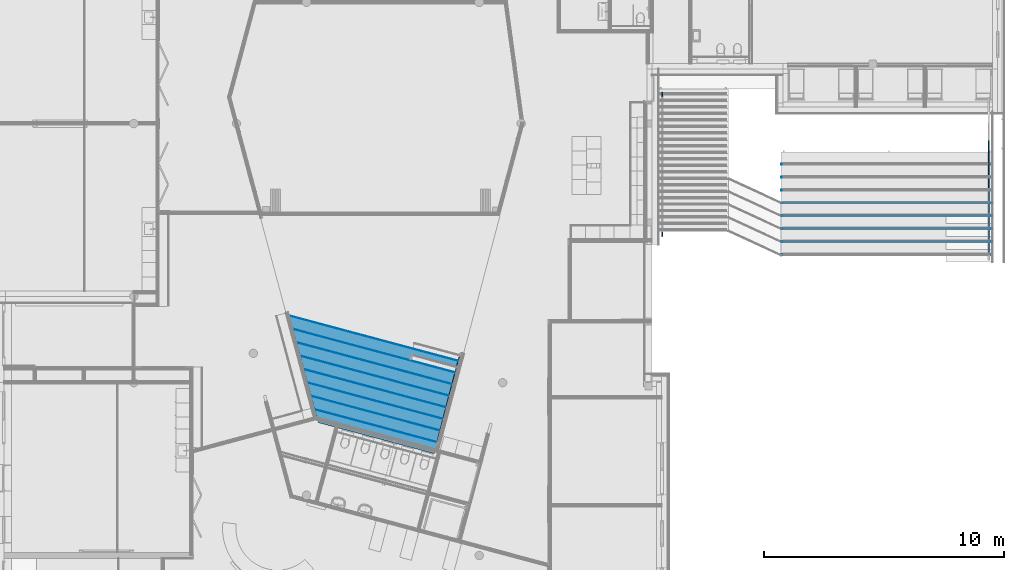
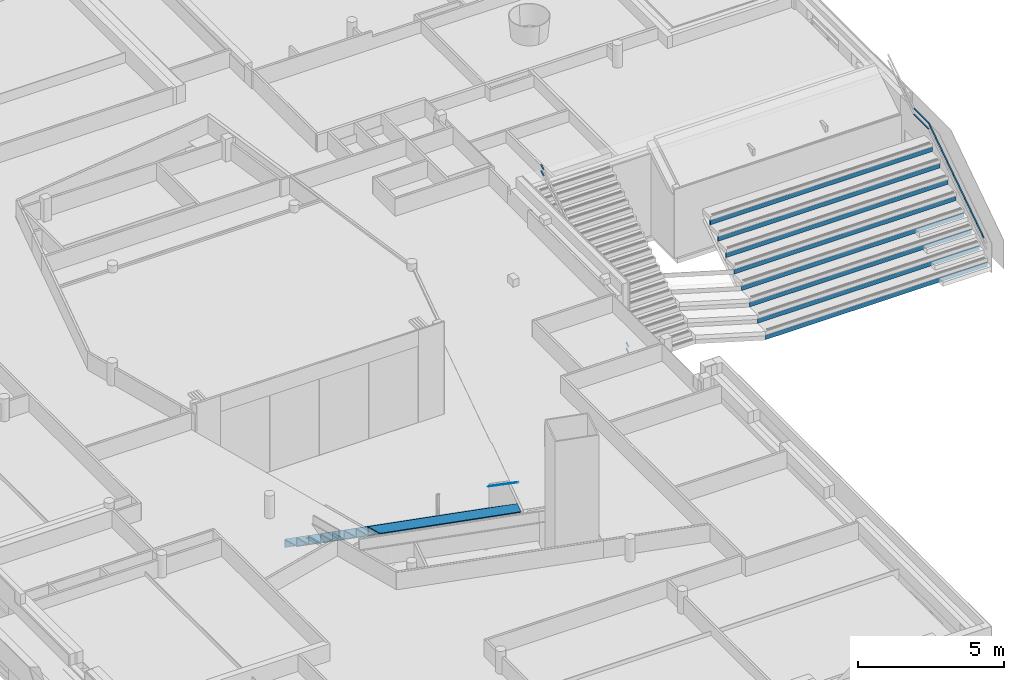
# One storey, part 2 of 167: 32 members, 7 elements without a shape of their own.
"""IFC2X3 building model written with IfcOpenShell, lengths in millimetres."""

from ifc_helpers import new_model, entity, si_unit, converted_unit, derived_unit, money_unit, direction, frame, origin_with_axes, place, context, subcontext, project, spatial, faceted_brep, source, transform, mapped, material, type_object, type_shapes, element, aggregate, save


model = new_model("IFC2X3")

# Units and contexts
model_context = context("Model", 3, precision=0.01, world=origin_with_axes(), true_north=direction((0.0, 1.0)))
plan_context = context("Plan", 3, precision=0.01, world=origin_with_axes(), true_north=direction((0.0, 1.0)))
body_context = subcontext(model_context, "Body", "Model", "MODEL_VIEW")
ifc_project = project(units=[si_unit("LENGTHUNIT", "METRE", prefix="MILLI"), si_unit("AREAUNIT", "SQUARE_METRE"), si_unit("VOLUMEUNIT", "CUBIC_METRE"), converted_unit("PLANEANGLEUNIT", "DEGREE", entity("IfcPlaneAngleMeasure", 0.0174532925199), si_unit("PLANEANGLEUNIT", "RADIAN"), dimensions=[0, 0, 0, 0, 0, 0, 0]), si_unit("SOLIDANGLEUNIT", "STERADIAN"), money_unit("EUR"), converted_unit("TIMEUNIT", "Year", entity("IfcTimeMeasure", 31556926.0), si_unit("TIMEUNIT", "SECOND"), dimensions=[0, 0, 1, 0, 0, 0, 0]), si_unit("MASSUNIT", "GRAM", prefix="KILO"), si_unit("THERMODYNAMICTEMPERATUREUNIT", "DEGREE_CELSIUS"), si_unit("LUMINOUSINTENSITYUNIT", "LUMEN"), si_unit("ENERGYUNIT", "JOULE", prefix="MEGA"), derived_unit("THERMALCONDUCTANCEUNIT", [(si_unit("POWERUNIT", "WATT"), 1), (si_unit("LENGTHUNIT", "METRE"), -1), (si_unit("THERMODYNAMICTEMPERATUREUNIT", "KELVIN"), -1)]), derived_unit("SPECIFICHEATCAPACITYUNIT", [(si_unit("ENERGYUNIT", "JOULE"), 1), (si_unit("MASSUNIT", "GRAM", prefix="KILO"), -1), (si_unit("THERMODYNAMICTEMPERATUREUNIT", "KELVIN"), -1)]), derived_unit("MASSDENSITYUNIT", [(si_unit("MASSUNIT", "GRAM", prefix="KILO"), 1), (si_unit("VOLUMEUNIT", "CUBIC_METRE"), -1)])], contexts=[model_context, plan_context])

# Site, building, storey
site_placement = place(None, origin_with_axes())
site = spatial("IfcSite", under=ifc_project, at=site_placement, Name="Site", CompositionType="ELEMENT")
building_placement = place(site_placement, origin_with_axes())
building = spatial("IfcBuilding", under=site, at=building_placement, Name="Naam gebouw", CompositionType="ELEMENT")
storey_placement = place(building_placement, origin_with_axes())
storey = spatial("IfcBuildingStorey", under=building, at=storey_placement, Name="Begane grond", CompositionType="ELEMENT", Elevation=0.0)

# Stair, members
stair_1_placement = place(storey_placement, frame((20763.4047106, 18904.1199995, 0.0), z_axis=(0.0, 0.0, 1.0), x_axis=(0.980577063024, 0.196134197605, 0.0)))
stair_1 = element("IfcStair", 1, at=stair_1_placement, inside=storey, Name="_Trap_Trap-x", ShapeType="NOTDEFINED")
ifc_material_1 = material(Name="Hout - Vloer")
member_type_1 = type_object("IfcMemberType", Name="IfcMember", PredefinedType="USERDEFINED")
member_1_placement = place(stair_1_placement, frame((-3271.86527099, 1617.83733685, 322.0), z_axis=(0.0, 0.0, 1.0), x_axis=(-0.896401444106, 0.443243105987, 0.0)))
member_1 = element("IfcMember", 2, at=member_1_placement, type_object=member_type_1, material=ifc_material_1, Name="_Trap - stootbord_Stootbord-x", context=body_context, shape_type="Brep", body=[
    faceted_brep([(3675.06219206, 0.0, 0.0), (3664.64169934, 18.0, 0.0), (-3650.0, 18.0, 0.0), (-3650.0, 0.0, 0.0), (3675.06219206, 0.0, -322.0), (3664.64169934, 18.0, -322.0), (-3650.0, 18.0, -322.0), (-3650.0, 0.0, -322.0)], [[[0, 1, 2, 3]], [[0, 4, 5, 1]], [[1, 5, 6, 2]], [[3, 2, 6, 7]], [[4, 0, 3, 7]], [[5, 4, 7, 6]]]),
])
member_2_placement = place(stair_1_placement, frame((-3493.48682398, 1169.6366148, 682.0), z_axis=(0.0, 0.0, 1.0), x_axis=(-0.896401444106, 0.443243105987, 0.0)))
member_2 = element("IfcMember", 3, at=member_2_placement, type_object=member_type_1, material=ifc_material_1, Name="_Trap - stootbord_Stootbord-x", context=body_context, shape_type="Brep", body=[
    faceted_brep([(3385.60406096, 0.0, 0.0), (3375.18356824, 18.0, 0.0), (-3650.0, 18.0, 0.0), (-3650.0, 0.0, 0.0), (3385.60406096, 0.0, -322.0), (3375.18356824, 18.0, -322.0), (-3650.0, 18.0, -322.0), (-3650.0, 0.0, -322.0)], [[[0, 1, 2, 3]], [[0, 4, 5, 1]], [[1, 5, 6, 2]], [[3, 2, 6, 7]], [[4, 0, 3, 7]], [[5, 4, 7, 6]]]),
])
member_3_placement = place(stair_1_placement, frame((-3715.10837697, 721.435892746, 1042.0), z_axis=(0.0, 0.0, 1.0), x_axis=(-0.896401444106, 0.443243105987, 0.0)))
member_3 = element("IfcMember", 4, at=member_3_placement, type_object=member_type_1, material=ifc_material_1, Name="_Trap - stootbord_Stootbord-x", context=body_context, shape_type="Brep", body=[
    faceted_brep([(3096.14592987, 0.0, 0.0), (3085.72543715, 18.0, 0.0), (-3650.0, 18.0, 0.0), (-3650.0, 0.0, 0.0), (3096.14592987, 0.0, -322.0), (3085.72543715, 18.0, -322.0), (-3650.0, 18.0, -322.0), (-3650.0, 0.0, -322.0)], [[[0, 1, 2, 3]], [[0, 4, 5, 1]], [[1, 5, 6, 2]], [[3, 2, 6, 7]], [[4, 0, 3, 7]], [[5, 4, 7, 6]]]),
])
member_4_placement = place(stair_1_placement, frame((-3936.72992997, 273.235170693, 1402.0), z_axis=(0.0, 0.0, 1.0), x_axis=(-0.896401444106, 0.443243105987, 0.0)))
member_4 = element("IfcMember", 5, at=member_4_placement, type_object=member_type_1, material=ifc_material_1, Name="_Trap - stootbord_Stootbord-x", context=body_context, shape_type="Brep", body=[
    faceted_brep([(2806.68779878, 0.0, 0.0), (2796.26730606, 18.0, 0.0), (-3650.0, 18.0, 0.0), (-3650.0, 0.0, 0.0), (2806.68779878, 0.0, -322.0), (2796.26730606, 18.0, -322.0), (-3650.0, 18.0, -322.0), (-3650.0, 0.0, -322.0)], [[[0, 1, 2, 3]], [[0, 4, 5, 1]], [[1, 5, 6, 2]], [[3, 2, 6, 7]], [[4, 0, 3, 7]], [[5, 4, 7, 6]]]),
])
member_5_placement = place(stair_1_placement, frame((-4158.35148296, -174.965551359, 1762.0), z_axis=(0.0, 0.0, 1.0), x_axis=(-0.896401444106, 0.443243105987, 0.0)))
member_5 = element("IfcMember", 6, at=member_5_placement, type_object=member_type_1, material=ifc_material_1, Name="_Trap - stootbord_Stootbord-x", context=body_context, shape_type="Brep", body=[
    faceted_brep([(2517.22966768, 0.0, 0.0), (2506.80917496, 18.0, 0.0), (-3650.0, 18.0, 0.0), (-3650.0, 0.0, 0.0), (2517.22966768, 0.0, -322.0), (2506.80917496, 18.0, -322.0), (-3650.0, 18.0, -322.0), (-3650.0, 0.0, -322.0)], [[[0, 1, 2, 3]], [[0, 4, 5, 1]], [[1, 5, 6, 2]], [[3, 2, 6, 7]], [[4, 0, 3, 7]], [[5, 4, 7, 6]]]),
])
member_6_placement = place(stair_1_placement, frame((-4379.97303595, -623.166273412, 2122.0), z_axis=(0.0, 0.0, 1.0), x_axis=(-0.896401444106, 0.443243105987, 0.0)))
member_6 = element("IfcMember", 7, at=member_6_placement, type_object=member_type_1, material=ifc_material_1, Name="_Trap - stootbord_Stootbord-x", context=body_context, shape_type="Brep", body=[
    faceted_brep([(2227.77153659, 0.0, 0.0), (2217.35104387, 18.0, 0.0), (-3650.0, 18.0, 0.0), (-3650.0, 0.0, 0.0), (2227.77153659, 0.0, -322.0), (2217.35104387, 18.0, -322.0), (-3650.0, 18.0, -322.0), (-3650.0, 0.0, -322.0)], [[[0, 1, 2, 3]], [[0, 4, 5, 1]], [[1, 5, 6, 2]], [[3, 2, 6, 7]], [[4, 0, 3, 7]], [[5, 4, 7, 6]]]),
])
member_7_placement = place(stair_1_placement, frame((-4601.59458895, -1071.36699547, 2482.0), z_axis=(0.0, 0.0, 1.0), x_axis=(-0.896401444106, 0.443243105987, 0.0)))
member_7 = element("IfcMember", 8, at=member_7_placement, type_object=member_type_1, material=ifc_material_1, Name="_Trap - stootbord_Stootbord-x", context=body_context, shape_type="Brep", body=[
    faceted_brep([(1938.3134055, 0.0, 0.0), (1927.89291278, 18.0, 0.0), (-3650.0, 18.0, 0.0), (-3650.0, 0.0, 0.0), (1938.3134055, 0.0, -322.0), (1927.89291278, 18.0, -322.0), (-3650.0, 18.0, -322.0), (-3650.0, 0.0, -322.0)], [[[0, 1, 2, 3]], [[0, 4, 5, 1]], [[1, 5, 6, 2]], [[3, 2, 6, 7]], [[4, 0, 3, 7]], [[5, 4, 7, 6]]]),
])
member_8_placement = place(stair_1_placement, frame((-4823.21614194, -1519.56771752, 2842.0), z_axis=(0.0, 0.0, 1.0), x_axis=(-0.896401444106, 0.443243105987, 0.0)))
member_8 = element("IfcMember", 9, at=member_8_placement, type_object=member_type_1, material=ifc_material_1, Name="_Trap - stootbord_Stootbord-x", context=body_context, shape_type="Brep", body=[
    faceted_brep([(1648.8552744, 0.0, 0.0), (1638.43478168, 18.0, 0.0), (-3650.0, 18.0, 0.0), (-3650.0, 0.0, 0.0), (1648.8552744, 0.0, -322.0), (1638.43478168, 18.0, -322.0), (-3650.0, 18.0, -322.0), (-3650.0, 0.0, -322.0)], [[[0, 1, 2, 3]], [[0, 4, 5, 1]], [[1, 5, 6, 2]], [[3, 2, 6, 7]], [[4, 0, 3, 7]], [[5, 4, 7, 6]]]),
])

stair_2_placement = place(storey_placement, frame((34186.0021329, 23294.6820704, 0.0), z_axis=(0.0, 0.0, 1.0), x_axis=(1.0, 0.0, 0.0)))
stair_2 = element("IfcStair", 10, at=stair_2_placement, inside=storey, Name="_Trap_Trap-x", ShapeType="NOTDEFINED")
ifc_material_2 = material(Name="Beton gewapend prefab vloer")
member_9_placement = place(stair_2_placement, frame((4499.99573192, -3.60825808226, 180.0), z_axis=(0.0, 0.0, 1.0), x_axis=(0.999999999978, -6.66713791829e-06, 0.0)))
member_9 = element("IfcMember", 11, at=member_9_placement, type_object=member_type_1, material=ifc_material_2, Name="_Trap - stootbord_Stootbord-x", context=body_context, shape_type="Brep", body=[
    faceted_brep([(4299.97799864, 20.0, 0.0), (4299.97799864, 60.0, 0.0), (-4500.0, 60.0, 0.0), (-4500.0, 20.0, 0.0), (4299.97799864, 20.0, -180.0), (4299.97799864, 60.0, -180.0), (-4500.0, 60.0, -180.0), (-4500.0, 20.0, -180.0)], [[[0, 1, 2, 3]], [[0, 4, 5, 1]], [[1, 5, 6, 2]], [[3, 2, 6, 7]], [[4, 0, 3, 7]], [[5, 4, 7, 6]]]),
])
member_10_placement = place(stair_2_placement, frame((4499.99933218, 536.391741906, 540.0), z_axis=(0.0, 0.0, 1.0), x_axis=(0.999999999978, -6.66713791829e-06, 0.0)))
member_10 = element("IfcMember", 12, at=member_10_placement, type_object=member_type_1, material=ifc_material_2, Name="_Trap - stootbord_Stootbord-x", context=body_context, shape_type="Brep", body=[
    faceted_brep([(4299.97799864, 20.0, 0.0), (4299.97799864, 60.0, 0.0), (-4500.0, 60.0, 0.0), (-4500.0, 20.0, 0.0), (4299.97799864, 20.0, -180.0), (4299.97799864, 60.0, -180.0), (-4500.0, 60.0, -180.0), (-4500.0, 20.0, -180.0)], [[[0, 1, 2, 3]], [[0, 4, 5, 1]], [[1, 5, 6, 2]], [[3, 2, 6, 7]], [[4, 0, 3, 7]], [[5, 4, 7, 6]]]),
])
member_11_placement = place(stair_2_placement, frame((4500.00293243, 1076.39174189, 900.0), z_axis=(0.0, 0.0, 1.0), x_axis=(0.999999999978, -6.66713791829e-06, 0.0)))
member_11 = element("IfcMember", 13, at=member_11_placement, type_object=member_type_1, material=ifc_material_2, Name="_Trap - stootbord_Stootbord-x", context=body_context, shape_type="Brep", body=[
    faceted_brep([(4299.97799864, 20.0, 0.0), (4299.97799864, 60.0, 0.0), (-4500.0, 60.0, 0.0), (-4500.0, 20.0, 0.0), (4299.97799864, 20.0, -180.0), (4299.97799864, 60.0, -180.0), (-4500.0, 60.0, -180.0), (-4500.0, 20.0, -180.0)], [[[0, 1, 2, 3]], [[0, 4, 5, 1]], [[1, 5, 6, 2]], [[3, 2, 6, 7]], [[4, 0, 3, 7]], [[5, 4, 7, 6]]]),
])
member_12_placement = place(stair_2_placement, frame((4500.00653269, 1616.39174188, 1260.0), z_axis=(0.0, 0.0, 1.0), x_axis=(0.999999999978, -6.66713791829e-06, 0.0)))
member_12 = element("IfcMember", 14, at=member_12_placement, type_object=member_type_1, material=ifc_material_2, Name="_Trap - stootbord_Stootbord-x", context=body_context, shape_type="Brep", body=[
    faceted_brep([(4299.97799864, 20.0, 0.0), (4299.97799864, 60.0, 0.0), (-4500.0, 60.0, 0.0), (-4500.0, 20.0, 0.0), (4299.97799864, 20.0, -180.0), (4299.97799864, 60.0, -180.0), (-4500.0, 60.0, -180.0), (-4500.0, 20.0, -180.0)], [[[0, 1, 2, 3]], [[0, 4, 5, 1]], [[1, 5, 6, 2]], [[3, 2, 6, 7]], [[4, 0, 3, 7]], [[5, 4, 7, 6]]]),
])
member_13_placement = place(stair_2_placement, frame((4500.01013294, 2156.39174187, 1620.0), z_axis=(0.0, 0.0, 1.0), x_axis=(0.999999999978, -6.66713791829e-06, 0.0)))
member_13 = element("IfcMember", 15, at=member_13_placement, type_object=member_type_1, material=ifc_material_2, Name="_Trap - stootbord_Stootbord-x", context=body_context, shape_type="Brep", body=[
    faceted_brep([(4299.97799864, 20.0, 0.0), (4299.97799864, 60.0, 0.0), (-4500.0, 60.0, 0.0), (-4500.0, 20.0, 0.0), (4299.97799864, 20.0, -180.0), (4299.97799864, 60.0, -180.0), (-4500.0, 60.0, -180.0), (-4500.0, 20.0, -180.0)], [[[0, 1, 2, 3]], [[0, 4, 5, 1]], [[1, 5, 6, 2]], [[3, 2, 6, 7]], [[4, 0, 3, 7]], [[5, 4, 7, 6]]]),
])
member_14_placement = place(stair_2_placement, frame((4500.01373319, 2696.39174186, 1980.0), z_axis=(0.0, 0.0, 1.0), x_axis=(0.999999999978, -6.66713791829e-06, 0.0)))
member_14 = element("IfcMember", 16, at=member_14_placement, type_object=member_type_1, material=ifc_material_2, Name="_Trap - stootbord_Stootbord-x", context=body_context, shape_type="Brep", body=[
    faceted_brep([(4299.97799864, 20.0, 0.0), (4299.97799864, 60.0, 0.0), (-4500.0, 60.0, 0.0), (-4500.0, 20.0, 0.0), (4299.97799864, 20.0, -180.0), (4299.97799864, 60.0, -180.0), (-4500.0, 60.0, -180.0), (-4500.0, 20.0, -180.0)], [[[0, 1, 2, 3]], [[0, 4, 5, 1]], [[1, 5, 6, 2]], [[3, 2, 6, 7]], [[4, 0, 3, 7]], [[5, 4, 7, 6]]]),
])
member_15_placement = place(stair_2_placement, frame((4500.01733345, 3236.39174185, 2340.0), z_axis=(0.0, 0.0, 1.0), x_axis=(0.999999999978, -6.66713791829e-06, 0.0)))
member_15 = element("IfcMember", 17, at=member_15_placement, type_object=member_type_1, material=ifc_material_2, Name="_Trap - stootbord_Stootbord-x", context=body_context, shape_type="Brep", body=[
    faceted_brep([(4299.97799864, 20.0, 0.0), (4299.97799864, 60.0, 0.0), (-4500.0, 60.0, 0.0), (-4500.0, 20.0, 0.0), (4299.97799864, 20.0, -180.0), (4299.97799864, 60.0, -180.0), (-4500.0, 60.0, -180.0), (-4500.0, 20.0, -180.0)], [[[0, 1, 2, 3]], [[0, 4, 5, 1]], [[1, 5, 6, 2]], [[3, 2, 6, 7]], [[4, 0, 3, 7]], [[5, 4, 7, 6]]]),
])
member_16_placement = place(stair_2_placement, frame((4500.0209337, 3776.39174183, 2700.0), z_axis=(0.0, 0.0, 1.0), x_axis=(0.999999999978, -6.66713791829e-06, 0.0)))
member_16 = element("IfcMember", 18, at=member_16_placement, type_object=member_type_1, material=ifc_material_2, Name="_Trap - stootbord_Stootbord-x", context=body_context, shape_type="Brep", body=[
    faceted_brep([(4299.97799864, 20.0, 0.0), (4299.97799864, 60.0, 0.0), (-4500.0, 60.0, 0.0), (-4500.0, 20.0, 0.0), (4299.97799864, 20.0, -180.0), (4299.97799864, 60.0, -180.0), (-4500.0, 60.0, -180.0), (-4500.0, 20.0, -180.0)], [[[0, 1, 2, 3]], [[0, 4, 5, 1]], [[1, 5, 6, 2]], [[3, 2, 6, 7]], [[4, 0, 3, 7]], [[5, 4, 7, 6]]]),
])
aggregate(stair_2, [member_9, member_10, member_11, member_12, member_13, member_14, member_15, member_16])

# Member
member_type_2 = type_object("IfcMemberType", Name="IfcMember", PredefinedType="USERDEFINED")
member_17_placement = place(stair_1_placement, frame((-3271.86527099, 1617.83733685, 360.0), z_axis=(0.0, 0.0, 1.0), x_axis=(-0.896401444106, 0.443243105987, 0.0)))
member_17 = element("IfcMember", 19, at=member_17_placement, type_object=member_type_2, material=ifc_material_1, Name="_Trap - trede_Traptrede-x", context=body_context, shape_type="Brep", body=[
    faceted_brep([(-3650.0, 0.0, -38.0), (3675.06219206, 0.0, -38.0), (3675.06219206, 0.0, 0.0), (-3650.0, 0.0, 0.0), (-3650.0, 518.000014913, -38.0), (3375.1835591, 518.000015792, -38.0), (3375.1835591, 518.000015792, 0.0), (-3650.0, 518.000014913, 0.0)], [[[0, 1, 2, 3]], [[0, 4, 5, 1]], [[1, 5, 6, 2]], [[3, 2, 6, 7]], [[4, 0, 3, 7]], [[5, 4, 7, 6]]]),
])

member_18_placement = place(stair_1_placement, frame((-3493.48682398, 1169.6366148, 720.0), z_axis=(0.0, 0.0, 1.0), x_axis=(-0.896401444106, 0.443243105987, 0.0)))
member_18 = element("IfcMember", 20, at=member_18_placement, type_object=member_type_2, material=ifc_material_1, Name="_Trap - trede_Traptrede-x", context=body_context, shape_type="Brep", body=[
    faceted_brep([(-3650.0, 0.0, -38.0), (3385.60406096, 0.0, -38.0), (3385.60406096, 0.0, 0.0), (-3650.0, 0.0, 0.0), (-3650.0, 518.000004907, -38.0), (3085.72544886, 517.999979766, -38.0), (3085.72544886, 517.999979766, 0.0), (-3650.0, 518.000004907, 0.0)], [[[0, 1, 2, 3]], [[0, 4, 5, 1]], [[1, 5, 6, 2]], [[3, 2, 6, 7]], [[4, 0, 3, 7]], [[5, 4, 7, 6]]]),
])

member_19_placement = place(stair_1_placement, frame((-3715.10837697, 721.435892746, 1080.0), z_axis=(0.0, 0.0, 1.0), x_axis=(-0.896401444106, 0.443243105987, 0.0)))
member_19 = element("IfcMember", 21, at=member_19_placement, type_object=member_type_2, material=ifc_material_1, Name="_Trap - trede_Traptrede-x", context=body_context, shape_type="Brep", body=[
    faceted_brep([(-3650.0, 0.0, -38.0), (3096.14592987, 0.0, -38.0), (3096.14592987, 0.0, 0.0), (-3650.0, 0.0, 0.0), (-3650.0, 518.000006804, -38.0), (2796.26729908, 518.000012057, -38.0), (2796.26729908, 518.000012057, 0.0), (-3650.0, 518.000006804, 0.0)], [[[0, 1, 2, 3]], [[0, 4, 5, 1]], [[1, 5, 6, 2]], [[3, 2, 6, 7]], [[4, 0, 3, 7]], [[5, 4, 7, 6]]]),
])

member_20_placement = place(stair_1_placement, frame((-3936.72992997, 273.235170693, 1440.0), z_axis=(0.0, 0.0, 1.0), x_axis=(-0.896401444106, 0.443243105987, 0.0)))
member_20 = element("IfcMember", 22, at=member_20_placement, type_object=member_type_2, material=ifc_material_1, Name="_Trap - trede_Traptrede-x", context=body_context, shape_type="Brep", body=[
    faceted_brep([(-3650.0, 0.0, -38.0), (2806.68779878, 0.0, -38.0), (2806.68779878, 0.0, 0.0), (-3650.0, 0.0, 0.0), (-3650.0, 517.999994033, -38.0), (2506.80916969, 518.000009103, -38.0), (2506.80916969, 518.000009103, 0.0), (-3650.0, 517.999994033, 0.0)], [[[0, 1, 2, 3]], [[0, 4, 5, 1]], [[1, 5, 6, 2]], [[3, 2, 6, 7]], [[4, 0, 3, 7]], [[5, 4, 7, 6]]]),
])

member_21_placement = place(stair_1_placement, frame((-4158.35148296, -174.965551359, 1800.0), z_axis=(0.0, 0.0, 1.0), x_axis=(-0.896401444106, 0.443243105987, 0.0)))
member_21 = element("IfcMember", 23, at=member_21_placement, type_object=member_type_2, material=ifc_material_1, Name="_Trap - trede_Traptrede-x", context=body_context, shape_type="Brep", body=[
    faceted_brep([(-3650.0, 0.0, -38.0), (2517.22966768, 0.0, -38.0), (2517.22966768, 0.0, 0.0), (-3650.0, 0.0, 0.0), (-3650.0, 517.999981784, -38.0), (2217.35104847, 517.999992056, -38.0), (2217.35104847, 517.999992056, 0.0), (-3650.0, 517.999981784, 0.0)], [[[0, 1, 2, 3]], [[0, 4, 5, 1]], [[1, 5, 6, 2]], [[3, 2, 6, 7]], [[4, 0, 3, 7]], [[5, 4, 7, 6]]]),
])

member_22_placement = place(stair_1_placement, frame((-4379.97303595, -623.166273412, 2160.0), z_axis=(0.0, 0.0, 1.0), x_axis=(-0.896401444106, 0.443243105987, 0.0)))
member_22 = element("IfcMember", 24, at=member_22_placement, type_object=member_type_2, material=ifc_material_1, Name="_Trap - trede_Traptrede-x", context=body_context, shape_type="Brep", body=[
    faceted_brep([(-3650.0, 0.0, -38.0), (2227.77153659, 0.0, -38.0), (2227.77153659, 0.0, 0.0), (-3650.0, 0.0, 0.0), (-3650.0, 518.00000899, -38.0), (1927.89291149, 518.000002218, -38.0), (1927.89291149, 518.000002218, 0.0), (-3650.0, 518.00000899, 0.0)], [[[0, 1, 2, 3]], [[0, 4, 5, 1]], [[1, 5, 6, 2]], [[3, 2, 6, 7]], [[4, 0, 3, 7]], [[5, 4, 7, 6]]]),
])

member_23_placement = place(stair_1_placement, frame((-4601.59458895, -1071.36699547, 2520.0), z_axis=(0.0, 0.0, 1.0), x_axis=(-0.896401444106, 0.443243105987, 0.0)))
member_23 = element("IfcMember", 25, at=member_23_placement, type_object=member_type_2, material=ifc_material_1, Name="_Trap - trede_Traptrede-x", context=body_context, shape_type="Brep", body=[
    faceted_brep([(-3650.0, 0.0, -38.0), (1938.3134055, 0.0, -38.0), (1938.3134055, 0.0, 0.0), (-3650.0, 0.0, 0.0), (-3650.0, 518.000013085, -38.0), (1638.43479143, 517.999983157, -38.0), (1638.43479143, 517.999983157, 0.0), (-3650.0, 518.000013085, 0.0)], [[[0, 1, 2, 3]], [[0, 4, 5, 1]], [[1, 5, 6, 2]], [[3, 2, 6, 7]], [[4, 0, 3, 7]], [[5, 4, 7, 6]]]),
])

member_24_placement = place(stair_1_placement, frame((-4823.21614194, -1519.56771752, 2880.0), z_axis=(0.0, 0.0, 1.0), x_axis=(-0.896401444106, 0.443243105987, 0.0)))
member_24 = element("IfcMember", 26, at=member_24_placement, type_object=member_type_2, material=ifc_material_1, Name="_Trap - trede_Traptrede-x", context=body_context, shape_type="Brep", body=[
    faceted_brep([(-3650.0, 0.0, -38.0), (1648.8552744, 0.0, -38.0), (1648.8552744, 0.0, 0.0), (-3650.0, 0.0, 0.0), (-3650.0, 500.0, -38.0), (1359.39714331, 500.0, -38.0), (1359.39714331, 500.0, 0.0), (-3650.0, 500.0, 0.0)], [[[0, 1, 2, 3]], [[0, 4, 5, 1]], [[1, 5, 6, 2]], [[3, 2, 6, 7]], [[4, 0, 3, 7]], [[5, 4, 7, 6]]]),
])

aggregate(stair_1, [member_1, member_2, member_3, member_4, member_5, member_6, member_7, member_8, member_17, member_18, member_19, member_20, member_21, member_22, member_23, member_24])

# Railing, member
railing_type = type_object("IfcRailingType", Name="Railing Type", PredefinedType="NOTDEFINED")
railing_1_placement = place(storey_placement, frame((20755.6650349, 19165.0128844, 181.999996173), z_axis=(0.0, 0.0, 1.0), x_axis=(1.0, 0.0, 0.0)))
railing_1 = element("IfcRailing", 27, at=railing_1_placement, inside=storey, type_object=railing_type, Name="34_Reling_Reling-x", PredefinedType="NOTDEFINED")
ifc_material_3 = material(Name="Metaal - RVS")
member_type_3 = type_object("IfcMemberType", Name="IfcMember", PredefinedType="USERDEFINED")
member_25_placement = place(railing_1_placement, frame((-419.965100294, -1827.96320562, 867.984378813), z_axis=(0.0, 0.0, 1.0), x_axis=(1.0, 0.0, 0.0)))
member_25 = element("IfcMember", 28, at=member_25_placement, type_object=member_type_3, material=ifc_material_3, Name="_Reling - regel_Bovenregel-x", context=body_context, shape_type="Brep", body=[
    faceted_brep([(444.172450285, 1821.71787085, 32.0156211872), (441.254448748, 1810.40749485, 15.7810697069), (-495.505151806, -1820.53757731, 2713.78107353), (-492.587150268, -1809.22720131, 2730.01562501), (492.587150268, 1809.22720131, 32.0156211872), (489.669148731, 1797.91682531, 15.7810697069), (-447.090451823, -1833.02824685, 2713.78107353), (-444.172450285, -1821.71787085, 2730.01562501)], [[[0, 1, 2, 3]], [[0, 4, 5, 1]], [[1, 5, 6, 2]], [[3, 2, 6, 7]], [[4, 0, 3, 7]], [[5, 4, 7, 6]]]),
])
aggregate(railing_1, [member_25])

# Railing, members
railing_2_placement = place(storey_placement, frame((42986.011491, 28357.8807857, 360.0), z_axis=(0.0, 0.0, 1.0), x_axis=(1.0, 0.0, 0.0)))
railing_2 = element("IfcRailing", 29, at=railing_2_placement, inside=storey, type_object=railing_type, Name="34_Reling_Reling-x", PredefinedType="NOTDEFINED")
member_26_placement = place(railing_2_placement, frame((-150.02121109, -3176.83472596, 867.984378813), z_axis=(0.0, 0.0, 1.0), x_axis=(1.0, 0.0, 0.0)))
member_26 = element("IfcMember", 30, at=member_26_placement, type_object=member_type_3, material=ifc_material_3, Name="_Reling - regel_Handregel-x", context=body_context, shape_type="Brep", body=[
    faceted_brep([(24.9873862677, -1890.00017626, 32.0156211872), (24.9874603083, -1878.90617237, 15.3746152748), (25.0126539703, 1896.05535601, 2532.01562119), (25.0126137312, 1889.99984328, 2552.01562119), (-25.0126137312, -1889.99984256, 32.0156211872), (-25.0125396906, -1878.90583867, 15.3746152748), (15.9874195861, -1885.00781444, 24.5271685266), (15.9874269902, -1883.89841405, 22.8630679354), (-16.0125730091, -1883.89820049, 22.8630679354), (-16.0125804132, -1885.00760088, 24.5271685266), (-24.9873460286, 1896.05568826, 2532.01562119), (-24.9873862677, 1890.00017553, 2552.01562119), (16.012631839, 1892.72488382, 2543.01562119), (-15.9873681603, 1892.72509646, 2543.01562119), (-15.9873641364, 1893.33064773, 2541.01562119), (16.0126358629, 1893.33043509, 2541.01562119)], [[[0, 1, 2, 3]], [[0, 4, 5, 1], [6, 7, 8, 9]], [[1, 10, 2]], [[3, 2, 10, 11], [12, 13, 14, 15]], [[4, 0, 3]], [[5, 4, 11, 10]], [[1, 5, 10]], [[7, 6, 12, 15]], [[8, 7, 15, 14]], [[9, 8, 14, 13]], [[6, 9, 13, 12]], [[4, 3, 11]]]),
])
member_27_placement = place(railing_2_placement, frame((-150.005231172, -778.422730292, 3387.98437881), z_axis=(0.0, 0.0, 1.0), x_axis=(1.0, 0.0, 0.0)))
member_27 = element("IfcMember", 31, at=member_27_placement, type_object=member_type_3, material=ifc_material_3, Name="_Reling - regel_Handregel-x", context=body_context, shape_type="Brep", body=[
    faceted_brep([(24.9966338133, -508.412160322, 32.0156211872), (24.9966740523, -502.356647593, 12.0156211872), (25.0034034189, 514.467134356, 12.0156211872), (25.0033661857, 508.411840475, 32.0156211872), (-25.0033661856, -508.411828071, 32.0156211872), (-25.0033259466, -502.356315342, 12.0156211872), (15.996651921, -505.687119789, 23.0156211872), (15.9966559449, -505.081568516, 21.0156211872), (-16.0033440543, -505.081355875, 21.0156211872), (-16.0033480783, -505.686907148, 23.0156211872), (-24.9965965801, 514.4674418, 12.0156211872), (-24.9966338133, 508.412147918, 32.0156211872), (16.0033829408, 511.136778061, 23.0156211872), (-15.9966170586, 511.136974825, 23.0156211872), (-15.9966133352, 511.742504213, 21.0156211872), (16.0033866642, 511.742307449, 21.0156211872)], [[[0, 1, 2, 3]], [[0, 4, 5, 1], [6, 7, 8, 9]], [[1, 5, 10, 2]], [[3, 2, 10, 11], [12, 13, 14, 15]], [[4, 0, 3, 11]], [[5, 4, 11, 10]], [[7, 6, 12, 15]], [[8, 7, 15, 14]], [[9, 8, 14, 13]], [[6, 9, 13, 12]]]),
])
aggregate(railing_2, [member_26, member_27])

# Railing, member
railing_3_placement = place(storey_placement, frame((42986.011491, 28357.8807857, 360.0), z_axis=(0.0, 0.0, 1.0), x_axis=(1.0, 0.0, 0.0)))
railing_3 = element("IfcRailing", 32, at=railing_3_placement, inside=storey, type_object=railing_type, Name="34_Reling_Reling-x", PredefinedType="NOTDEFINED")
member_28_placement = place(railing_3_placement, frame((-150.005371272, -778.42275478, 3137.98437881), z_axis=(0.0, 0.0, 1.0), x_axis=(1.0, 0.0, 0.0)))
member_28 = element("IfcMember", 33, at=member_28_placement, type_object=member_type_3, material=ifc_material_3, Name="_Reling - regel_Handregel-x", context=body_context, shape_type="Brep", body=[
    faceted_brep([(24.9967168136, -508.412157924, 32.0156211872), (24.9967564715, -502.356645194, 12.0156211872), (25.0033202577, 514.467135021, 12.0156211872), (25.0032831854, 508.411841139, 32.0156211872), (-25.0032831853, -508.411830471, 32.0156211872), (-25.0032435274, -502.356317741, 12.0156211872), (15.9967346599, -505.687118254, 23.0156211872), (15.9967386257, -505.081566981, 21.0156211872), (-16.0032613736, -505.081357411, 21.0156211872), (-16.0032653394, -505.686908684, 23.0156211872), (-24.9966797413, 514.467441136, 12.0156211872), (-24.9967168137, 508.412147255, 32.0156211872), (16.0032998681, 511.136778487, 23.0156211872), (-15.9967001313, 511.136974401, 23.0156211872), (-15.9966964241, 511.742503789, 21.0156211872), (16.0033035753, 511.742307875, 21.0156211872)], [[[0, 1, 2, 3]], [[0, 4, 5, 1], [6, 7, 8, 9]], [[1, 5, 10, 2]], [[3, 2, 10, 11], [12, 13, 14, 15]], [[4, 0, 3, 11]], [[5, 4, 11, 10]], [[7, 6, 12, 15]], [[8, 7, 15, 14]], [[9, 8, 14, 13]], [[6, 9, 13, 12]]]),
])
aggregate(railing_3, [member_28])

railing_4_placement = place(storey_placement, frame((29074.0, 24308.0128651, 180.0), z_axis=(0.0, 0.0, 1.0), x_axis=(-1.0, 0.0, 0.0)))
railing_4 = element("IfcRailing", 34, at=railing_4_placement, inside=storey, type_object=railing_type, Name="34_Reling_Reling-x", PredefinedType="NOTDEFINED")
shared_shape_1 = source(origin_with_axes(), body_context, "Body", "Brep", [
    faceted_brep([(75.0, 0.0, 900.0), (75.0, 11.0940039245, 883.358994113), (75.0, -155.316054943, 772.418954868), (75.0, -166.410058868, 789.059960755), (125.0, 0.0, 900.0), (125.0, 11.0940039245, 883.358994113), (84.0, 4.99230176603, 892.511547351), (84.0, 6.10170215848, 890.847446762), (116.0, 6.10170215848, 890.847446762), (116.0, 4.99230176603, 892.511547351), (125.0, -155.316054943, 772.418954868), (125.0, -166.410058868, 789.059960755), (84.0, -161.417757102, 781.571508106), (116.0, -161.417757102, 781.571508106), (116.0, -160.308356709, 779.907407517), (84.0, -160.308356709, 779.907407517)], [[[0, 1, 2, 3]], [[0, 4, 5, 1], [6, 7, 8, 9]], [[1, 5, 10, 2]], [[3, 2, 10, 11], [12, 13, 14, 15]], [[4, 0, 3, 11]], [[5, 4, 11, 10]], [[7, 6, 12, 15]], [[8, 7, 15, 14]], [[9, 8, 14, 13]], [[6, 9, 13, 12]]]),
])
member_29_placement = place(railing_4_placement, frame((0.0, 0.0, 0.0), z_axis=(0.0, 0.0, 1.0), x_axis=(-1.0, 0.0, 0.0)))
member_29 = element("IfcMember", 35, at=member_29_placement, type_object=member_type_3, material=ifc_material_3, Name="_Reling - regel_Einde handregel 1-x", context=body_context, shape_type="MappedRepresentation", body=[
    mapped(shared_shape_1, transform((50.0, -49.8999864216, 0.0))),
])

railing_5_placement = place(storey_placement, frame((29074.0, 24308.0128651, -70.0), z_axis=(0.0, 0.0, 1.0), x_axis=(-1.0, 0.0, 0.0)))
railing_5 = element("IfcRailing", 36, at=railing_5_placement, inside=storey, type_object=railing_type, Name="34_Reling_Reling-x", PredefinedType="NOTDEFINED")
member_30_placement = place(railing_5_placement, frame((0.0, 0.0, 0.0), z_axis=(0.0, 0.0, 1.0), x_axis=(-1.0, 0.0, 0.0)))
member_30 = element("IfcMember", 37, at=member_30_placement, type_object=member_type_3, material=ifc_material_3, Name="_Reling - regel_Einde handregel 1-x", context=body_context, shape_type="MappedRepresentation", body=[
    mapped(shared_shape_1, transform((50.0, -49.8999864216, 0.0))),
])

# Member
shared_shape_2 = source(origin_with_axes(), body_context, "Body", "Brep", [
    faceted_brep([(125.0, 0.0, 900.0), (125.0, 11.0940039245, 883.358994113), (125.0, 177.504062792, 994.299033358), (125.0, 166.410058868, 1010.94003925), (75.0, 0.0, 900.0), (75.0, 11.0940039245, 883.358994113), (116.0, 4.99230176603, 892.511547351), (116.0, 6.10170215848, 890.847446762), (84.0, 6.10170215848, 890.847446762), (84.0, 4.99230176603, 892.511547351), (75.0, 177.504062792, 994.299033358), (75.0, 166.410058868, 1010.94003925), (116.0, 171.402360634, 1003.4515866), (84.0, 171.402360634, 1003.4515866), (84.0, 172.511761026, 1001.78748601), (116.0, 172.511761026, 1001.78748601)], [[[0, 1, 2, 3]], [[0, 4, 5, 1], [6, 7, 8, 9]], [[1, 5, 10, 2]], [[3, 2, 10, 11], [12, 13, 14, 15]], [[4, 0, 3, 11]], [[5, 4, 11, 10]], [[7, 6, 12, 15]], [[8, 7, 15, 14]], [[9, 8, 14, 13]], [[6, 9, 13, 12]]]),
])
type_shapes(member_type_3, [shared_shape_1, shared_shape_2])
member_31_placement = place(railing_4_placement, frame((0.0, 0.0, 0.0), z_axis=(0.0, 0.0, 1.0), x_axis=(-1.0, 0.0, 0.0)))
member_31 = element("IfcMember", 38, at=member_31_placement, type_object=member_type_3, material=ifc_material_3, Name="_Reling - regel_Einde handregel 1-x", context=body_context, shape_type="MappedRepresentation", body=[
    mapped(shared_shape_2, transform((50.0, 5620.10001358, 3780.0))),
])

aggregate(railing_4, [member_29, member_31])

member_32_placement = place(railing_5_placement, frame((0.0, 0.0, 0.0), z_axis=(0.0, 0.0, 1.0), x_axis=(-1.0, 0.0, 0.0)))
member_32 = element("IfcMember", 39, at=member_32_placement, type_object=member_type_3, material=ifc_material_3, Name="_Reling - regel_Einde handregel 1-x", context=body_context, shape_type="MappedRepresentation", body=[
    mapped(shared_shape_2, transform((50.0, 5620.10001358, 3780.0))),
])

aggregate(railing_5, [member_30, member_32])

save(model, "model.ifc")
